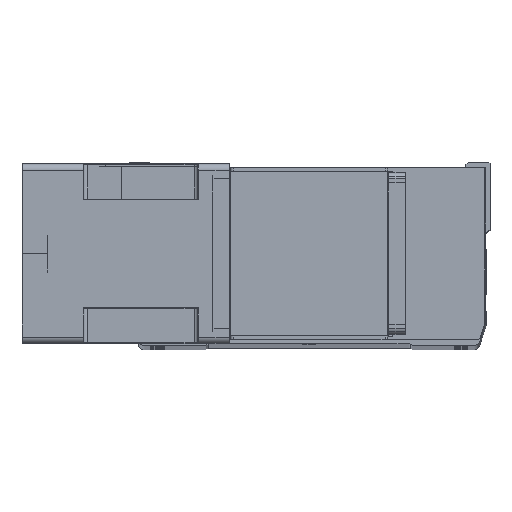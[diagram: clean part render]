
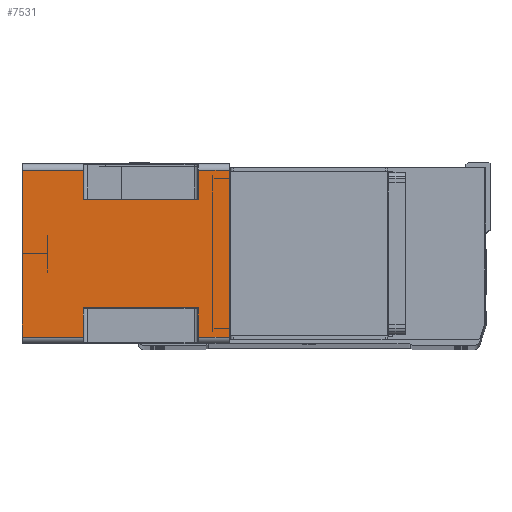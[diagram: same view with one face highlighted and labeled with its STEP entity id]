
A CAD part, top view. The second image highlights one B-rep face of the part: STEP entity #7531.
In plain terms, the highlighted planar face has unit normal (0, 0, 1) as drawn and (-1, 0, 0) by its records, which use the part's own axes.
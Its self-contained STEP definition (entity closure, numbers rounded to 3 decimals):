
#612 = VECTOR ( 'NONE', #29567, 1000. ) ;
#747 = VERTEX_POINT ( 'NONE', #15454 ) ;
#1029 = EDGE_CURVE ( 'NONE', #24759, #34191, #17072, .T. ) ;
#1141 = ORIENTED_EDGE ( 'NONE', *, *, #34724, .F. ) ;
#1632 = VECTOR ( 'NONE', #30647, 1000. ) ;
#1993 = CARTESIAN_POINT ( 'NONE',  ( -71., -66., -164. ) ) ;
#4141 = ORIENTED_EDGE ( 'NONE', *, *, #36793, .T. ) ;
#4701 = DIRECTION ( 'NONE',  ( 0., -1., 0. ) ) ;
#5878 = LINE ( 'NONE', #16394, #42010 ) ;
#5957 = LINE ( 'NONE', #1993, #16405 ) ;
#6068 = LINE ( 'NONE', #9822, #1632 ) ;
#6269 = VERTEX_POINT ( 'NONE', #10199 ) ;
#6637 = CARTESIAN_POINT ( 'NONE',  ( -71., 66., 0. ) ) ;
#7531 = ADVANCED_FACE ( 'NONE', ( #13597 ), #18665, .T. ) ;
#7604 = VERTEX_POINT ( 'NONE', #36216 ) ;
#7976 = ORIENTED_EDGE ( 'NONE', *, *, #32493, .T. ) ;
#8783 = EDGE_CURVE ( 'NONE', #6269, #17801, #45530, .T. ) ;
#9739 = CARTESIAN_POINT ( 'NONE',  ( -71., 66., -164. ) ) ;
#9822 = CARTESIAN_POINT ( 'NONE',  ( -71., 66., -164. ) ) ;
#10199 = CARTESIAN_POINT ( 'NONE',  ( -71., 66., -164. ) ) ;
#10210 = CARTESIAN_POINT ( 'NONE',  ( -71., -66., -24.5 ) ) ;
#11598 = DIRECTION ( 'NONE',  ( -1., 0., 0. ) ) ;
#12442 = LINE ( 'NONE', #43107, #37098 ) ;
#12671 = CARTESIAN_POINT ( 'NONE',  ( -71., -66., -164. ) ) ;
#13597 = FACE_OUTER_BOUND ( 'NONE', #24228, .T. ) ;
#14220 = DIRECTION ( 'NONE',  ( 0., -1., 0. ) ) ;
#14880 = CARTESIAN_POINT ( 'NONE',  ( -71., 43., -115.5 ) ) ;
#14973 = VECTOR ( 'NONE', #40423, 1000. ) ;
#15001 = CARTESIAN_POINT ( 'NONE',  ( -71., -66., -164. ) ) ;
#15140 = DIRECTION ( 'NONE',  ( 0., -1., 0. ) ) ;
#15384 = EDGE_CURVE ( 'NONE', #747, #28093, #30841, .T. ) ;
#15454 = CARTESIAN_POINT ( 'NONE',  ( -71., -43., -24.5 ) ) ;
#16394 = CARTESIAN_POINT ( 'NONE',  ( -71., -66., -164. ) ) ;
#16405 = VECTOR ( 'NONE', #19803, 1000. ) ;
#16438 = EDGE_CURVE ( 'NONE', #6269, #7604, #6068, .T. ) ;
#16780 = CARTESIAN_POINT ( 'NONE',  ( -71., -66., -164. ) ) ;
#17072 = LINE ( 'NONE', #21665, #21455 ) ;
#17673 = EDGE_CURVE ( 'NONE', #26210, #35089, #12442, .T. ) ;
#17801 = VERTEX_POINT ( 'NONE', #16780 ) ;
#18036 = ORIENTED_EDGE ( 'NONE', *, *, #17673, .T. ) ;
#18558 = CARTESIAN_POINT ( 'NONE',  ( -71., 66., -24.5 ) ) ;
#18665 = PLANE ( 'NONE',  #38528 ) ;
#19585 = VECTOR ( 'NONE', #21499, 1000. ) ;
#19803 = DIRECTION ( 'NONE',  ( 0., 0., 1. ) ) ;
#21129 = DIRECTION ( 'NONE',  ( 0., 0., -1. ) ) ;
#21446 = ORIENTED_EDGE ( 'NONE', *, *, #16438, .F. ) ;
#21455 = VECTOR ( 'NONE', #31755, 1000. ) ;
#21499 = DIRECTION ( 'NONE',  ( 0., 0., 1. ) ) ;
#21665 = CARTESIAN_POINT ( 'NONE',  ( -71., -66., 0. ) ) ;
#22648 = CARTESIAN_POINT ( 'NONE',  ( -71., -43., -115.5 ) ) ;
#24228 = EDGE_LOOP ( 'NONE', ( #37223, #24778, #24670, #40198, #4141, #32291, #1141, #18036, #32629, #7976, #21446, #26537 ) ) ;
#24254 = CARTESIAN_POINT ( 'NONE',  ( -71., -66., -115.5 ) ) ;
#24503 = CARTESIAN_POINT ( 'NONE',  ( -71., -43., -164. ) ) ;
#24670 = ORIENTED_EDGE ( 'NONE', *, *, #36983, .F. ) ;
#24759 = VERTEX_POINT ( 'NONE', #6637 ) ;
#24778 = ORIENTED_EDGE ( 'NONE', *, *, #35594, .T. ) ;
#26210 = VERTEX_POINT ( 'NONE', #18558 ) ;
#26537 = ORIENTED_EDGE ( 'NONE', *, *, #8783, .T. ) ;
#27460 = CARTESIAN_POINT ( 'NONE',  ( -71., -66., 0. ) ) ;
#27462 = VERTEX_POINT ( 'NONE', #14880 ) ;
#27910 = LINE ( 'NONE', #24503, #42631 ) ;
#28093 = VERTEX_POINT ( 'NONE', #42247 ) ;
#29567 = DIRECTION ( 'NONE',  ( 0., 1., 0. ) ) ;
#29978 = LINE ( 'NONE', #9739, #31075 ) ;
#30454 = DIRECTION ( 'NONE',  ( 0., 0., 1. ) ) ;
#30647 = DIRECTION ( 'NONE',  ( 0., 0., 1. ) ) ;
#30841 = LINE ( 'NONE', #10210, #39037 ) ;
#31075 = VECTOR ( 'NONE', #44644, 1000. ) ;
#31755 = DIRECTION ( 'NONE',  ( 0., -1., 0. ) ) ;
#32291 = ORIENTED_EDGE ( 'NONE', *, *, #1029, .F. ) ;
#32493 = EDGE_CURVE ( 'NONE', #27462, #7604, #40097, .T. ) ;
#32629 = ORIENTED_EDGE ( 'NONE', *, *, #37358, .F. ) ;
#33811 = VERTEX_POINT ( 'NONE', #35677 ) ;
#34191 = VERTEX_POINT ( 'NONE', #27460 ) ;
#34326 = VERTEX_POINT ( 'NONE', #22648 ) ;
#34724 = EDGE_CURVE ( 'NONE', #26210, #24759, #29978, .T. ) ;
#35089 = VERTEX_POINT ( 'NONE', #43977 ) ;
#35594 = EDGE_CURVE ( 'NONE', #33811, #34326, #36786, .T. ) ;
#35677 = CARTESIAN_POINT ( 'NONE',  ( -71., -66., -115.5 ) ) ;
#36149 = VECTOR ( 'NONE', #44509, 1000. ) ;
#36216 = CARTESIAN_POINT ( 'NONE',  ( -71., 66., -115.5 ) ) ;
#36786 = LINE ( 'NONE', #43925, #612 ) ;
#36793 = EDGE_CURVE ( 'NONE', #28093, #34191, #5957, .T. ) ;
#36983 = EDGE_CURVE ( 'NONE', #747, #34326, #27910, .T. ) ;
#37098 = VECTOR ( 'NONE', #15140, 1000. ) ;
#37223 = ORIENTED_EDGE ( 'NONE', *, *, #37957, .T. ) ;
#37358 = EDGE_CURVE ( 'NONE', #27462, #35089, #42584, .T. ) ;
#37957 = EDGE_CURVE ( 'NONE', #17801, #33811, #5878, .T. ) ;
#38528 = AXIS2_PLACEMENT_3D ( 'NONE', #15001, #11598, #4701 ) ;
#39037 = VECTOR ( 'NONE', #14220, 1000. ) ;
#40097 = LINE ( 'NONE', #24254, #14973 ) ;
#40198 = ORIENTED_EDGE ( 'NONE', *, *, #15384, .T. ) ;
#40423 = DIRECTION ( 'NONE',  ( 0., 1., 0. ) ) ;
#42010 = VECTOR ( 'NONE', #30454, 1000. ) ;
#42247 = CARTESIAN_POINT ( 'NONE',  ( -71., -66., -24.5 ) ) ;
#42273 = CARTESIAN_POINT ( 'NONE',  ( -71., 43., -164. ) ) ;
#42584 = LINE ( 'NONE', #42273, #19585 ) ;
#42631 = VECTOR ( 'NONE', #21129, 1000. ) ;
#43107 = CARTESIAN_POINT ( 'NONE',  ( -71., 43., -24.5 ) ) ;
#43925 = CARTESIAN_POINT ( 'NONE',  ( -71., -43., -115.5 ) ) ;
#43977 = CARTESIAN_POINT ( 'NONE',  ( -71., 43., -24.5 ) ) ;
#44509 = DIRECTION ( 'NONE',  ( 0., -1., 0. ) ) ;
#44644 = DIRECTION ( 'NONE',  ( 0., 0., 1. ) ) ;
#45530 = LINE ( 'NONE', #12671, #36149 ) ;
